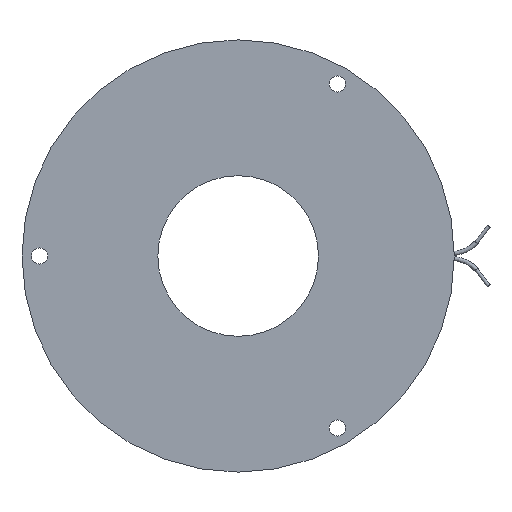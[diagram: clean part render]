
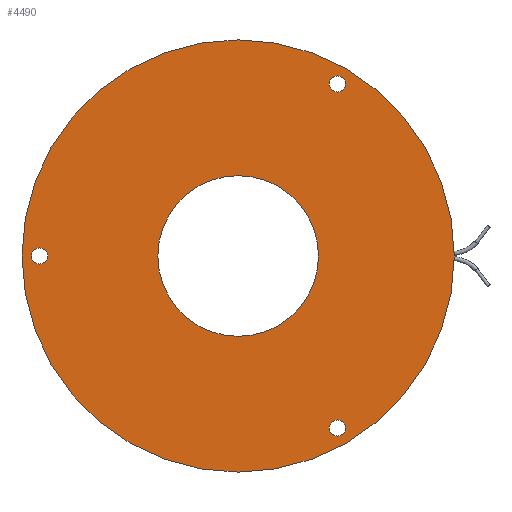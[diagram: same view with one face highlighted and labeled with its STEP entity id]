
A CAD part, left-side view. The second image highlights one B-rep face of the part: STEP entity #4490.
In plain terms, the highlighted planar face has unit normal (-1, 0, 0).
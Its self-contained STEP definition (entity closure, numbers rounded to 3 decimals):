
#58=FACE_BOUND('',#528,.T.);
#59=FACE_BOUND('',#529,.T.);
#60=FACE_BOUND('',#530,.T.);
#61=FACE_BOUND('',#531,.T.);
#112=PLANE('',#5013);
#272=FACE_OUTER_BOUND('',#527,.T.);
#527=EDGE_LOOP('',(#3325,#3326));
#528=EDGE_LOOP('',(#3327));
#529=EDGE_LOOP('',(#3328));
#530=EDGE_LOOP('',(#3329));
#531=EDGE_LOOP('',(#3330,#3331));
#922=CIRCLE('',#4951,27.5);
#923=CIRCLE('',#4952,27.5);
#924=CIRCLE('',#4954,74.);
#925=CIRCLE('',#4955,74.);
#966=CIRCLE('',#5003,2.75);
#967=CIRCLE('',#5005,2.75);
#968=CIRCLE('',#5007,2.75);
#1741=VERTEX_POINT('',#7736);
#1742=VERTEX_POINT('',#7737);
#1743=VERTEX_POINT('',#7742);
#1744=VERTEX_POINT('',#7743);
#1774=VERTEX_POINT('',#7895);
#1775=VERTEX_POINT('',#7899);
#1776=VERTEX_POINT('',#7903);
#2295=EDGE_CURVE('',#1741,#1742,#922,.T.);
#2297=EDGE_CURVE('',#1742,#1741,#923,.T.);
#2298=EDGE_CURVE('',#1743,#1744,#924,.T.);
#2299=EDGE_CURVE('',#1744,#1743,#925,.T.);
#2355=EDGE_CURVE('',#1774,#1774,#966,.T.);
#2357=EDGE_CURVE('',#1775,#1775,#967,.T.);
#2359=EDGE_CURVE('',#1776,#1776,#968,.T.);
#3325=ORIENTED_EDGE('',*,*,#2298,.T.);
#3326=ORIENTED_EDGE('',*,*,#2299,.T.);
#3327=ORIENTED_EDGE('',*,*,#2359,.T.);
#3328=ORIENTED_EDGE('',*,*,#2357,.T.);
#3329=ORIENTED_EDGE('',*,*,#2355,.T.);
#3330=ORIENTED_EDGE('',*,*,#2295,.F.);
#3331=ORIENTED_EDGE('',*,*,#2297,.F.);
#4490=ADVANCED_FACE('',(#272,#58,#59,#60,#61),#112,.T.);
#4951=AXIS2_PLACEMENT_3D('',#7738,#6067,#6068);
#4952=AXIS2_PLACEMENT_3D('',#7740,#6070,#6071);
#4954=AXIS2_PLACEMENT_3D('',#7744,#6074,#6075);
#4955=AXIS2_PLACEMENT_3D('',#7745,#6076,#6077);
#5003=AXIS2_PLACEMENT_3D('',#7897,#6183,#6184);
#5005=AXIS2_PLACEMENT_3D('',#7901,#6188,#6189);
#5007=AXIS2_PLACEMENT_3D('',#7905,#6193,#6194);
#5013=AXIS2_PLACEMENT_3D('',#7915,#6207,#6208);
#6067=DIRECTION('center_axis',(-1.,0.,0.));
#6068=DIRECTION('ref_axis',(0.,1.,0.));
#6070=DIRECTION('center_axis',(-1.,0.,0.));
#6071=DIRECTION('ref_axis',(0.,1.,0.));
#6074=DIRECTION('center_axis',(-1.,0.,0.));
#6075=DIRECTION('ref_axis',(0.,1.,0.));
#6076=DIRECTION('center_axis',(-1.,0.,0.));
#6077=DIRECTION('ref_axis',(0.,1.,0.));
#6183=DIRECTION('center_axis',(1.,0.,0.));
#6184=DIRECTION('ref_axis',(0.,0.,
-1.));
#6188=DIRECTION('center_axis',(1.,0.,0.));
#6189=DIRECTION('ref_axis',(0.,0.,
-1.));
#6193=DIRECTION('center_axis',(1.,0.,0.));
#6194=DIRECTION('ref_axis',(0.,0.,
-1.));
#6207=DIRECTION('center_axis',(-1.,0.,0.));
#6208=DIRECTION('ref_axis',(0.,0.,
1.));
#7736=CARTESIAN_POINT('',(-35.75,27.5,0.));
#7737=CARTESIAN_POINT('',(-35.75,-27.5,0.));
#7738=CARTESIAN_POINT('Origin',(-35.75,0.,0.));
#7740=CARTESIAN_POINT('Origin',(-35.75,0.,0.));
#7742=CARTESIAN_POINT('',(-35.75,74.,0.));
#7743=CARTESIAN_POINT('',(-35.75,-74.,0.));
#7744=CARTESIAN_POINT('Origin',(-35.75,0.,0.));
#7745=CARTESIAN_POINT('Origin',(-35.75,0.,0.));
#7895=CARTESIAN_POINT('',(-35.75,-34.,-56.14));
#7897=CARTESIAN_POINT('Origin',(-35.75,-34.,-58.89));
#7899=CARTESIAN_POINT('',(-35.75,68.,2.75));
#7901=CARTESIAN_POINT('Origin',(-35.75,68.,0.));
#7903=CARTESIAN_POINT('',(-35.75,-34.,61.64));
#7905=CARTESIAN_POINT('Origin',(-35.75,-34.,58.89));
#7915=CARTESIAN_POINT('Origin',(-35.75,50.75,0.));
